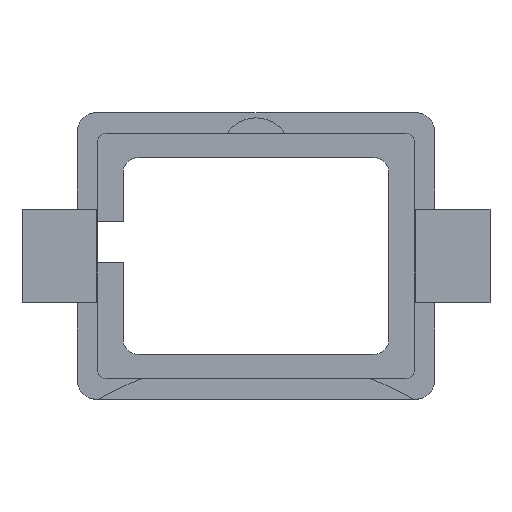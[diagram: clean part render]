
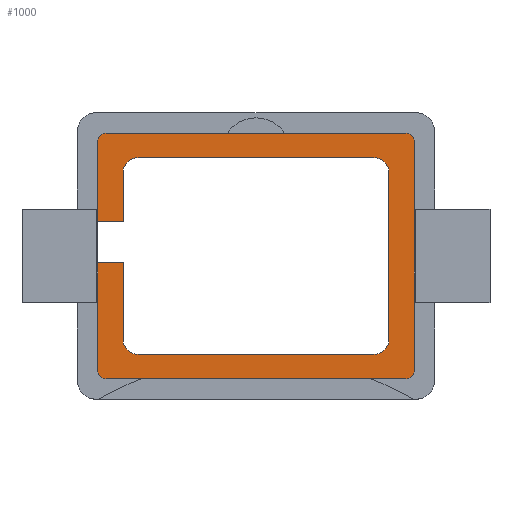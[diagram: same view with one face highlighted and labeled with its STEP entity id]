
A CAD part, top view. The second image highlights one B-rep face of the part: STEP entity #1000.
In plain terms, the highlighted planar face has unit normal (0, 0, 1).
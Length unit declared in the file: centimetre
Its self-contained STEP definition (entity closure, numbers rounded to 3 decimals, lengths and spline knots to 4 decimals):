
#55=CIRCLE('',#1058,0.045);
#56=CIRCLE('',#1061,0.045);
#58=CIRCLE('',#1066,0.045);
#59=CIRCLE('',#1069,0.045);
#61=CIRCLE('',#1073,0.08);
#62=CIRCLE('',#1076,0.08);
#63=CIRCLE('',#1079,0.08);
#64=CIRCLE('',#1082,0.08);
#111=FACE_OUTER_BOUND('',#161,.T.);
#161=EDGE_LOOP('',(#894,#895,#896,#897,#898,#899,#900,#901,#902,#903,#904,
#905,#906,#907,#908,#909,#910,#911,#912,#913));
#232=LINE('',#1556,#346);
#239=LINE('',#1569,#353);
#241=LINE('',#1576,#355);
#248=LINE('',#1593,#362);
#252=LINE('',#1600,#366);
#255=LINE('',#1613,#369);
#258=LINE('',#1621,#372);
#261=LINE('',#1629,#375);
#264=LINE('',#1637,#378);
#266=LINE('',#1640,#380);
#272=LINE('',#1651,#386);
#274=LINE('',#1654,#388);
#346=VECTOR('',#1248,0.1);
#353=VECTOR('',#1261,0.1);
#355=VECTOR('',#1269,0.1);
#362=VECTOR('',#1286,0.1);
#366=VECTOR('',#1290,0.1);
#369=VECTOR('',#1307,0.1);
#372=VECTOR('',#1316,0.1);
#375=VECTOR('',#1325,0.1);
#378=VECTOR('',#1334,0.1);
#380=VECTOR('',#1338,0.1);
#386=VECTOR('',#1348,0.1);
#388=VECTOR('',#1352,0.1);
#461=VERTEX_POINT('',#1554);
#462=VERTEX_POINT('',#1555);
#464=VERTEX_POINT('',#1563);
#465=VERTEX_POINT('',#1567);
#466=VERTEX_POINT('',#1571);
#467=VERTEX_POINT('',#1575);
#470=VERTEX_POINT('',#1586);
#471=VERTEX_POINT('',#1590);
#472=VERTEX_POINT('',#1592);
#475=VERTEX_POINT('',#1598);
#476=VERTEX_POINT('',#1606);
#477=VERTEX_POINT('',#1608);
#478=VERTEX_POINT('',#1612);
#479=VERTEX_POINT('',#1616);
#480=VERTEX_POINT('',#1620);
#481=VERTEX_POINT('',#1624);
#482=VERTEX_POINT('',#1628);
#483=VERTEX_POINT('',#1632);
#484=VERTEX_POINT('',#1636);
#487=VERTEX_POINT('',#1650);
#576=EDGE_CURVE('',#461,#462,#232,.T.);
#582=EDGE_CURVE('',#464,#462,#55,.T.);
#584=EDGE_CURVE('',#464,#465,#239,.T.);
#586=EDGE_CURVE('',#465,#466,#56,.T.);
#587=EDGE_CURVE('',#467,#466,#241,.T.);
#594=EDGE_CURVE('',#470,#467,#58,.T.);
#596=EDGE_CURVE('',#471,#472,#248,.T.);
#600=EDGE_CURVE('',#475,#470,#252,.T.);
#601=EDGE_CURVE('',#471,#461,#59,.T.);
#604=EDGE_CURVE('',#476,#477,#61,.T.);
#606=EDGE_CURVE('',#478,#477,#255,.T.);
#609=EDGE_CURVE('',#478,#479,#62,.T.);
#610=EDGE_CURVE('',#479,#480,#258,.T.);
#612=EDGE_CURVE('',#480,#481,#63,.T.);
#614=EDGE_CURVE('',#481,#482,#261,.T.);
#617=EDGE_CURVE('',#482,#483,#64,.T.);
#618=EDGE_CURVE('',#484,#483,#264,.T.);
#620=EDGE_CURVE('',#484,#475,#266,.T.);
#626=EDGE_CURVE('',#487,#472,#272,.T.);
#628=EDGE_CURVE('',#476,#487,#274,.T.);
#894=ORIENTED_EDGE('',*,*,#596,.F.);
#895=ORIENTED_EDGE('',*,*,#601,.T.);
#896=ORIENTED_EDGE('',*,*,#576,.T.);
#897=ORIENTED_EDGE('',*,*,#582,.F.);
#898=ORIENTED_EDGE('',*,*,#584,.T.);
#899=ORIENTED_EDGE('',*,*,#586,.T.);
#900=ORIENTED_EDGE('',*,*,#587,.F.);
#901=ORIENTED_EDGE('',*,*,#594,.F.);
#902=ORIENTED_EDGE('',*,*,#600,.F.);
#903=ORIENTED_EDGE('',*,*,#620,.F.);
#904=ORIENTED_EDGE('',*,*,#618,.T.);
#905=ORIENTED_EDGE('',*,*,#617,.F.);
#906=ORIENTED_EDGE('',*,*,#614,.F.);
#907=ORIENTED_EDGE('',*,*,#612,.F.);
#908=ORIENTED_EDGE('',*,*,#610,.F.);
#909=ORIENTED_EDGE('',*,*,#609,.F.);
#910=ORIENTED_EDGE('',*,*,#606,.T.);
#911=ORIENTED_EDGE('',*,*,#604,.F.);
#912=ORIENTED_EDGE('',*,*,#628,.T.);
#913=ORIENTED_EDGE('',*,*,#626,.T.);
#951=PLANE('',#1094);
#1000=ADVANCED_FACE('',(#111),#951,.T.);
#1058=AXIS2_PLACEMENT_3D('',#1565,#1256,#1257);
#1061=AXIS2_PLACEMENT_3D('',#1573,#1265,#1266);
#1066=AXIS2_PLACEMENT_3D('',#1588,#1281,#1282);
#1069=AXIS2_PLACEMENT_3D('',#1602,#1293,#1294);
#1073=AXIS2_PLACEMENT_3D('',#1609,#1302,#1303);
#1076=AXIS2_PLACEMENT_3D('',#1618,#1312,#1313);
#1079=AXIS2_PLACEMENT_3D('',#1625,#1320,#1321);
#1082=AXIS2_PLACEMENT_3D('',#1634,#1330,#1331);
#1094=AXIS2_PLACEMENT_3D('',#1664,#1368,#1369);
#1248=DIRECTION('',(1.,0.,0.));
#1256=DIRECTION('center_axis',(0.,0.,-1.));
#1257=DIRECTION('ref_axis',(0.,-1.,0.));
#1261=DIRECTION('',(0.,1.,0.));
#1265=DIRECTION('center_axis',(0.,0.,1.));
#1266=DIRECTION('ref_axis',(0.,-1.,0.));
#1269=DIRECTION('',(1.,0.,0.));
#1281=DIRECTION('center_axis',(0.,0.,-1.));
#1282=DIRECTION('ref_axis',(0.,-1.,0.));
#1286=DIRECTION('',(0.,1.,0.));
#1290=DIRECTION('',(0.,1.,0.));
#1293=DIRECTION('center_axis',(0.,0.,1.));
#1294=DIRECTION('ref_axis',(0.,-1.,0.));
#1302=DIRECTION('center_axis',(0.,0.,1.));
#1303=DIRECTION('ref_axis',(-1.,0.,0.));
#1307=DIRECTION('',(-1.,0.,0.));
#1312=DIRECTION('center_axis',(0.,0.,1.));
#1313=DIRECTION('ref_axis',(1.,0.,0.));
#1316=DIRECTION('',(0.,1.,0.));
#1320=DIRECTION('center_axis',(0.,0.,1.));
#1321=DIRECTION('ref_axis',(1.,0.,0.));
#1325=DIRECTION('',(-1.,0.,0.));
#1330=DIRECTION('center_axis',(0.,0.,1.));
#1331=DIRECTION('ref_axis',(-1.,0.,0.));
#1334=DIRECTION('',(0.,1.,0.));
#1338=DIRECTION('',(-1.,0.,0.));
#1348=DIRECTION('',(-1.,0.,0.));
#1352=DIRECTION('',(0.,1.,0.));
#1368=DIRECTION('center_axis',(0.,0.,1.));
#1369=DIRECTION('ref_axis',(1.,0.,0.));
#1554=CARTESIAN_POINT('',(-0.8005,-2.8078,0.795));
#1555=CARTESIAN_POINT('',(0.8005,-2.8078,0.795));
#1556=CARTESIAN_POINT('',(-0.8455,-2.8078,0.795));
#1563=CARTESIAN_POINT('',(0.8455,-2.7628,0.795));
#1565=CARTESIAN_POINT('Origin',(0.8005,-2.7628,0.795));
#1567=CARTESIAN_POINT('',(0.8455,-1.5428,0.795));
#1569=CARTESIAN_POINT('',(0.8455,-2.8078,0.795));
#1571=CARTESIAN_POINT('',(0.8005,-1.4978,0.795));
#1573=CARTESIAN_POINT('Origin',(0.8005,-1.5428,0.795));
#1575=CARTESIAN_POINT('',(-0.8005,-1.4978,0.795));
#1576=CARTESIAN_POINT('',(-0.8455,-1.4978,0.795));
#1586=CARTESIAN_POINT('',(-0.8455,-1.5428,0.795));
#1588=CARTESIAN_POINT('Origin',(-0.8005,-1.5428,0.795));
#1590=CARTESIAN_POINT('',(-0.8455,-2.7628,0.795));
#1592=CARTESIAN_POINT('',(-0.8455,-2.1878,0.795));
#1593=CARTESIAN_POINT('',(-0.8455,-2.8078,0.795));
#1598=CARTESIAN_POINT('',(-0.8455,-1.9678,0.795));
#1600=CARTESIAN_POINT('',(-0.8455,-2.8078,0.795));
#1602=CARTESIAN_POINT('Origin',(-0.8005,-2.7628,0.795));
#1606=CARTESIAN_POINT('',(-0.71,-2.5978,0.795));
#1608=CARTESIAN_POINT('',(-0.63,-2.6778,0.795));
#1609=CARTESIAN_POINT('Origin',(-0.63,-2.5978,0.795));
#1612=CARTESIAN_POINT('',(0.63,-2.6778,0.795));
#1613=CARTESIAN_POINT('',(-0.7778,-2.6778,0.795));
#1616=CARTESIAN_POINT('',(0.71,-2.5978,0.795));
#1618=CARTESIAN_POINT('Origin',(0.63,-2.5978,0.795));
#1620=CARTESIAN_POINT('',(0.71,-1.7078,0.795));
#1621=CARTESIAN_POINT('',(0.71,-2.7428,0.795));
#1624=CARTESIAN_POINT('',(0.63,-1.6278,0.795));
#1625=CARTESIAN_POINT('Origin',(0.63,-1.7078,0.795));
#1628=CARTESIAN_POINT('',(-0.63,-1.6278,0.795));
#1629=CARTESIAN_POINT('',(-0.7778,-1.6278,0.795));
#1632=CARTESIAN_POINT('',(-0.71,-1.7078,0.795));
#1634=CARTESIAN_POINT('Origin',(-0.63,-1.7078,0.795));
#1636=CARTESIAN_POINT('',(-0.71,-1.9678,0.795));
#1637=CARTESIAN_POINT('',(-0.71,-2.7428,0.795));
#1640=CARTESIAN_POINT('',(-0.8578,-1.9678,0.795));
#1650=CARTESIAN_POINT('',(-0.71,-2.1878,0.795));
#1651=CARTESIAN_POINT('',(-0.8578,-2.1878,0.795));
#1654=CARTESIAN_POINT('',(-0.71,-2.7428,0.795));
#1664=CARTESIAN_POINT('Origin',(-0.8455,-2.8078,0.795));
